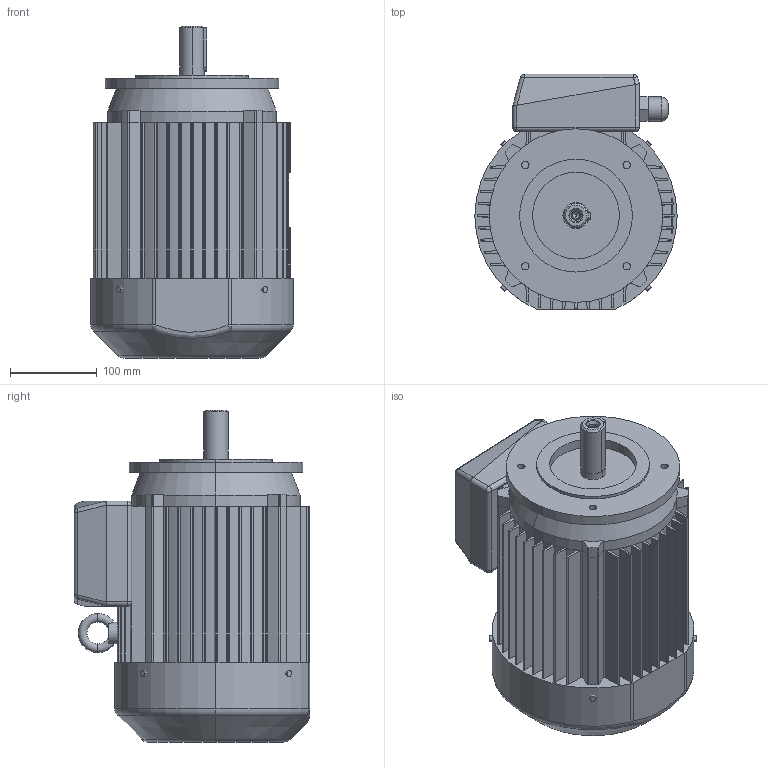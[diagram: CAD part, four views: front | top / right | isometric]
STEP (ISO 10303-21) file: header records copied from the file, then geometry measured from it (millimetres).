
FILE_DESCRIPTION (( 'STEP AP203' ), '1' );
FILE_NAME ('SKg 112M-B14-C1.STEP', '2010-02-09T12:34:39', ( 'INDUKTA' ), ( 'CANTONI MOTOR' ), 'SwSTEP 2.0', 'SolidWorks 2003064', '' );
FILE_SCHEMA (( 'CONFIG_CONTROL_DESIGN' ));
Length unit declared in the file: millimetre
Products named in the file (1): SKg 112M-B14-C1
Bounding box: 233 x 271 x 382.5 mm (x, y, z)
Volume: 11909782 mm3; surface area: 713100 mm2
Topology: 12 solids, 12 shells, 537 faces, 1436 edges, 923 vertices
Faces by surface type: plane 254, cylinder 203, bspline 43, cone 14, torus 13, sphere 10
Entity records: 20447 total; most frequent: CARTESIAN_POINT 7102, ORIENTED_EDGE 2848, DIRECTION 2692, EDGE_CURVE 1424, VERTEX_POINT 923, AXIS2_PLACEMENT_3D 912, LINE 868, VECTOR 868
